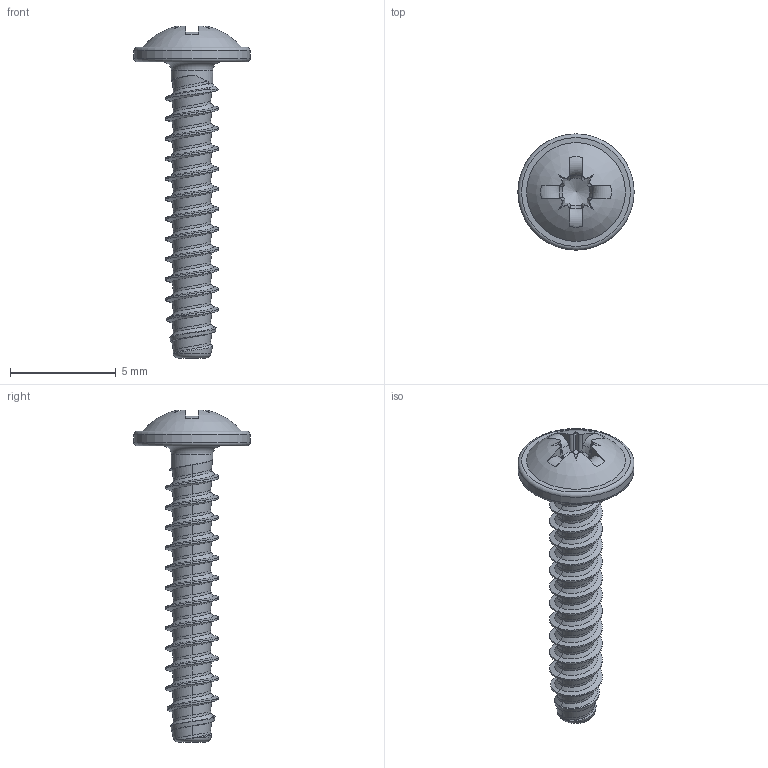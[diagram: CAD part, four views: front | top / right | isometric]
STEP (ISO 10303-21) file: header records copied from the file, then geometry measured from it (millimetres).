
FILE_DESCRIPTION(/* description */ (''),/* implementation_level */ '2;1');
FILE_NAME(/* name */ 'KN6031-STSplus-25x14-Z1.step',/* time_stamp */ '2017-10-09T16:37:45+02:00',/* author */ (''),/* organization */ (''),/* preprocessor_version */ 'ST-DEVELOPER v16',/* originating_system */ 'SIEMENS PLM Software NX 10.0',/* authorisation */ '');
FILE_SCHEMA (('AUTOMOTIVE_DESIGN { 1 0 10303 214 3 1 1 1 }'));
Length unit declared in the file: millimetre
Products named in the file (1): KN6031-STSplus-25x14-Z1
Bounding box: 5.5 x 5.5 x 15.7 mm (x, y, z)
Volume: 65.9 mm3; surface area: 188.3 mm2
Topology: 1 solids, 1 shells, 115 faces, 301 edges, 189 vertices
Faces by surface type: bspline 60, plane 27, cylinder 12, torus 8, cone 7, sphere 1
Full cylindrical faces by diameter (mm): 1.97 x1, 5.5 x1
Entity records: 7302 total; most frequent: CARTESIAN_POINT 4982, ORIENTED_EDGE 574, DIRECTION 292, EDGE_CURVE 287, VERTEX_POINT 184, B_SPLINE_CURVE_WITH_KNOTS 155, EDGE_LOOP 124, ADVANCED_FACE 115
